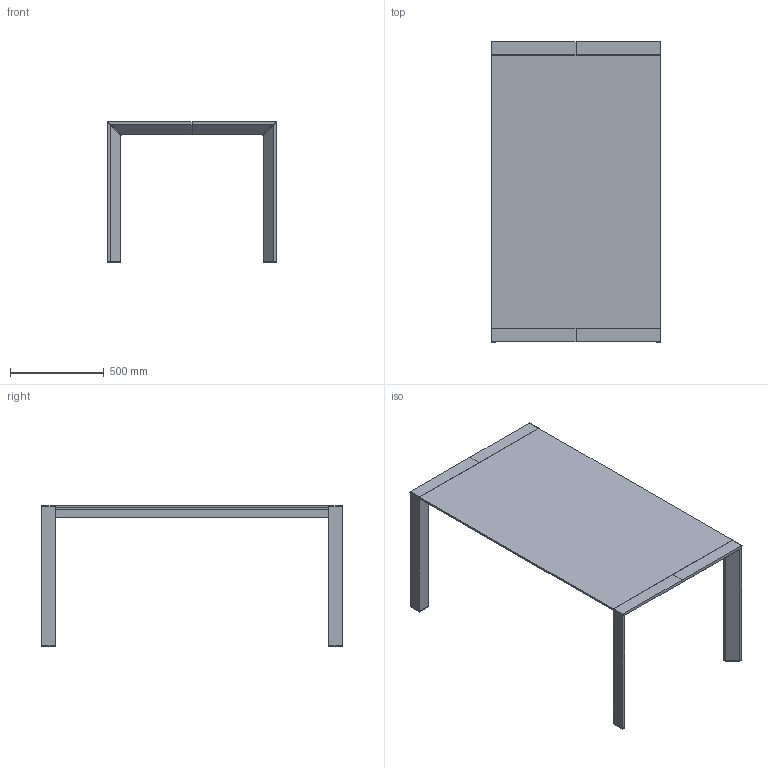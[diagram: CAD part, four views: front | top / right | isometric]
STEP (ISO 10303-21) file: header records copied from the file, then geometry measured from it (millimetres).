
FILE_DESCRIPTION(/* description */ (''),/* implementation_level */ '2;1');
FILE_NAME(/* name */ '10668 - Afill 160x90',/* time_stamp */ '2010-11-03T15:12:16+01:00',/* author */ (''),/* organization */ (''),/* preprocessor_version */ 'ST-DEVELOPER v10',/* originating_system */ '',/* authorisation */ '');
FILE_SCHEMA (('CONFIG_CONTROL_DESIGN'));
Length unit declared in the file: centimetre
Products named in the file (1): 1
Bounding box: 902.24 x 1600.6 x 751.1 mm (x, y, z)
Volume: 46265831.5 mm3; surface area: 6667317.4 mm2
Topology: 14 solids, 14 shells, 166 faces, 380 edges, 250 vertices
Faces by surface type: plane 166
Entity records: 4198 total; most frequent: CARTESIAN_POINT 1298, ORIENTED_EDGE 760, EDGE_CURVE 380, B_SPLINE_CURVE_WITH_KNOTS 380, VERTEX_POINT 250, EDGE_LOOP 174, DIRECTION 170, AXIS2_PLACEMENT_3D 168
